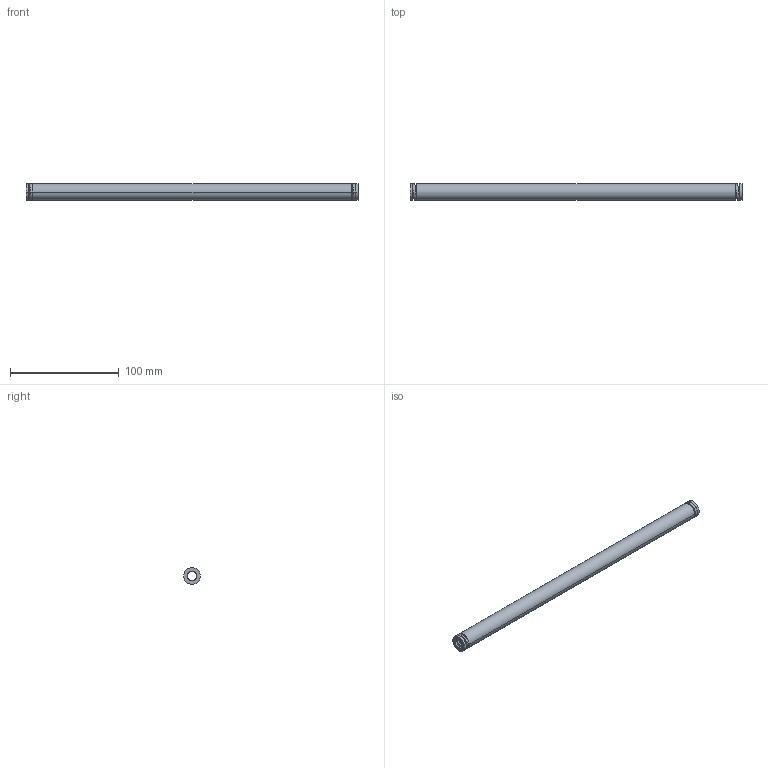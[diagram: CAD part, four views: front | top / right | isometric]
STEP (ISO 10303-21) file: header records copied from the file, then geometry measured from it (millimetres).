
FILE_DESCRIPTION(('CATIA V5 STEP Exchange'),'2;1');
FILE_NAME('C:\Users\Utente\Desktop\IO LAVORO\3D X SITO CF\X SITO\3D files 392B\392-B16-305.stp','2021-08-12T14:02:07+00:00',('none'),('none'),'CATIA Version 5 Release 20 GA (IN-10)','CATIA V5 STEP AP203','none');
FILE_SCHEMA(('CONFIG_CONTROL_DESIGN'));
Length unit declared in the file: millimetre
Products named in the file (1): 392-B16-305
Bounding box: 305 x 15.35 x 15.2 mm (x, y, z)
Volume: 36381.8 mm3; surface area: 23947.1 mm2
Topology: 1 solids, 1 shells, 38 faces, 92 edges, 64 vertices
Faces by surface type: cylinder 28, plane 10
Entity records: 1548 total; most frequent: CARTESIAN_POINT 653, ORIENTED_EDGE 184, DIRECTION 132, EDGE_CURVE 92, AXIS2_PLACEMENT_3D 67, VERTEX_POINT 64, EDGE_LOOP 56, ADVANCED_FACE 38
